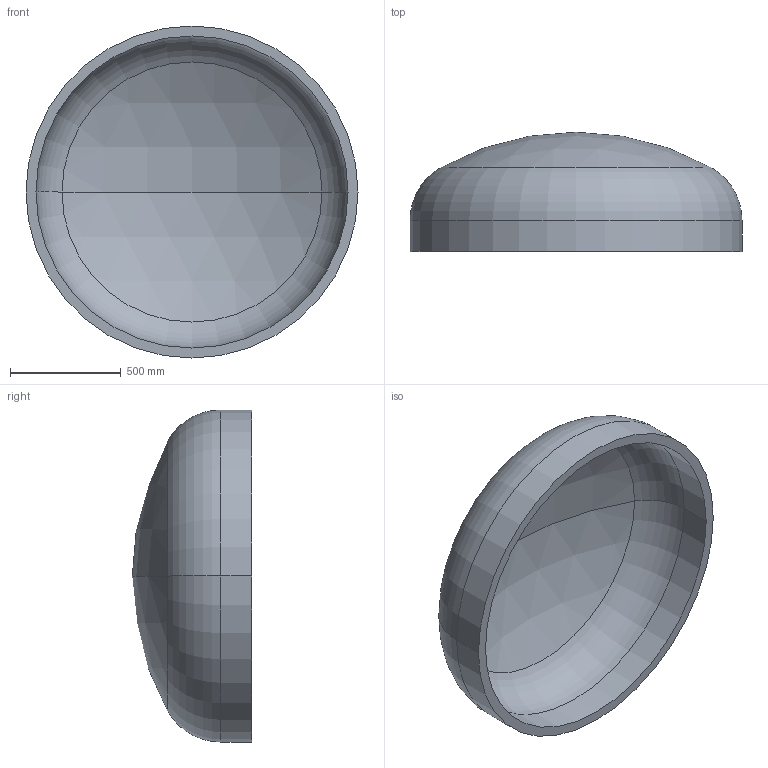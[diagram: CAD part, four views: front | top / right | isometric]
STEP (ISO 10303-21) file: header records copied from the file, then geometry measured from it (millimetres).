
FILE_DESCRIPTION (( 'STEP AP203' ), '1' );
FILE_NAME ('DIN 28013 Korbbogenform_-_Boden DIN 28013 - 1500 x 140 - I - s=45.step', '2016-07-01T10:47:21', ( '' ), ( '' ), 'SwSTEP 2.0', 'SolidWorks 2013', '' );
FILE_SCHEMA (( 'CONFIG_CONTROL_DESIGN' ));
Length unit declared in the file: millimetre
Products named in the file (1): DIN 28013 Korbbogenform_-_Boden DIN 28013 - 1500 x 140 - I - s=45
Bounding box: 1500 x 539.26 x 1500 mm (x, y, z)
Volume: 134608590.1 mm3; surface area: 6192539.3 mm2
Topology: 1 solids, 1 shells, 13 faces, 24 edges, 14 vertices
Faces by surface type: torus 4, cylinder 4, sphere 4, plane 1
Entity records: 407 total; most frequent: DIRECTION 72, CARTESIAN_POINT 52, ORIENTED_EDGE 48, AXIS2_PLACEMENT_3D 34, EDGE_CURVE 24, CIRCLE 20, EDGE_LOOP 14, VERTEX_POINT 14
